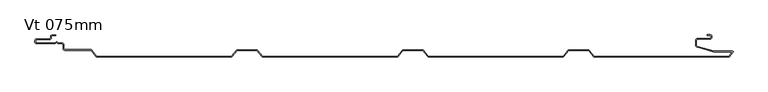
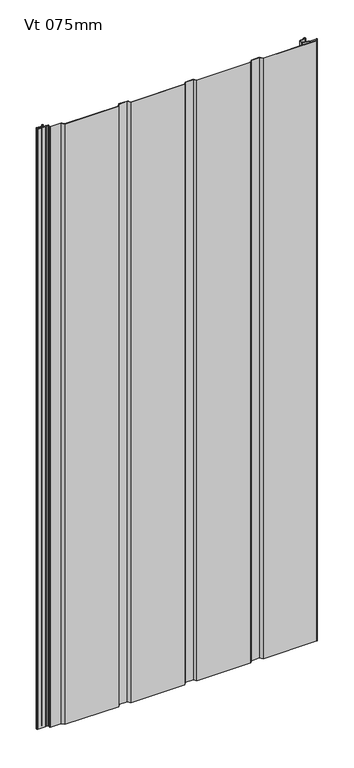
"""IFC4 building model written with IfcOpenShell, lengths in millimetres: plate geometry, KIP-MEX-KW-R19-CP-Vt-KW3_SL : Vt 075mm."""

from ifc_helpers import new_model, si_unit, point, frame_2d, origin, origin_with_axes, place, context, project, spatial, polyline, circle_curve, trimmed, segment, composite_curve, outline, extrude, source, transform, mapped, element, save


def vt_075mm_04f93a46(model_context):
    return source(origin(), model_context, "Body", "SweptSolid", [
        extrude(outline(composite_curve([segment(polyline([(319.1443161, -75.0), (311.1443161, -65.0), (281.1443161, -65.0), (273.1443161, -75.0), (69.1443161, -75.0), (61.1443161, -65.0), (31.1443161, -65.0), (23.1443161, -75.0), (-180.8556839, -75.0), (-188.8556839, -65.0), (-218.8556839, -65.0), (-226.8556839, -75.0), (-430.8556839, -75.0), (-438.7634979, -64.8799997), (-478.2701413, -64.8799997)]), True, "CONTINUOUS"), segment(trimmed(circle_curve(frame_2d((-478.2060113, -62.3808228)), 2.4999995), [point((-478.2701413, -64.8799997))], [point((-480.7060107, -62.3808228))], False, "CARTESIAN"), True, "CONTINUOUS"), segment(polyline([(-480.7060107, -62.3808228), (-480.7060107, -56.8808208)]), True, "CONTINUOUS"), segment(trimmed(circle_curve(frame_2d((-482.7060126, -56.8808208)), 2.0000019), [point((-480.7060107, -56.8808208))], [point((-482.7060126, -54.880819))], True, "CARTESIAN"), True, "CONTINUOUS"), segment(polyline([(-482.7060126, -54.880819), (-488.7060043, -54.880819), (-490.7060117, -52.8808375), (-492.7060191, -54.8808707), (-521.0060773, -54.8808707)]), True, "CONTINUOUS"), segment(trimmed(circle_curve(frame_2d((-521.0060773, -52.3807949)), 2.5000758), [point((-521.0060773, -54.8808707))], [point((-523.5061531, -52.3807949))], False, "CARTESIAN"), True, "CONTINUOUS"), segment(polyline([(-523.5061531, -52.3807949), (-523.5061531, -50.3981504)]), True, "CONTINUOUS"), segment(trimmed(circle_curve(frame_2d((-521.0058727, -50.3981504)), 2.5002804), [point((-523.5061531, -50.3981504))], [point((-521.0542465, -47.898338))], False, "CARTESIAN"), True, "CONTINUOUS"), segment(polyline([(-521.0542465, -47.898338), (-502.0036263, -47.898338)]), True, "CONTINUOUS"), segment(trimmed(circle_curve(frame_2d((-502.0036263, -45.8947114)), 2.0036267), [point((-502.0036263, -47.898338))], [point((-500.0000002, -45.8932097))], True, "CARTESIAN"), True, "CONTINUOUS"), segment(polyline([(-500.0000002, -45.8932097), (-500.0000002, -44.36152)]), True, "CONTINUOUS"), segment(trimmed(circle_curve(frame_2d((-497.5097194, -44.36152)), 2.4902807), [point((-500.0000002, -44.36152))], [point((-497.5115855, -41.87124))], False, "CARTESIAN"), True, "CONTINUOUS"), segment(polyline([(-497.5115855, -41.87124), (-492.2480458, -41.87124), (-492.2480458, -42.8880902), (-497.5062725, -42.8880902)]), True, "CONTINUOUS"), segment(trimmed(circle_curve(frame_2d((-497.5051479, -44.38863)), 1.5005402), [point((-497.5062725, -42.8880902))], [point((-499.0056881, -44.38863))], True, "CARTESIAN"), True, "CONTINUOUS"), segment(polyline([(-499.0056881, -44.38863), (-499.0056881, -45.813613)]), True, "CONTINUOUS"), segment(trimmed(circle_curve(frame_2d((-502.0059127, -45.8958544)), 3.0013516), [point((-499.0056881, -45.813613))], [point((-502.0059127, -48.897206))], False, "CARTESIAN"), True, "CONTINUOUS"), segment(polyline([(-502.0059127, -48.897206), (-521.0430726, -48.8972059)]), True, "CONTINUOUS"), segment(trimmed(circle_curve(frame_2d((-521.0055876, -50.3975906)), 1.5008529), [point((-521.0430726, -48.8972059))], [point((-522.5064405, -50.3975906))], True, "CARTESIAN"), True, "CONTINUOUS"), segment(polyline([(-522.5064405, -50.3975906), (-522.5064405, -52.3807386)]), True, "CONTINUOUS"), segment(trimmed(circle_curve(frame_2d((-521.0062107, -52.3807386)), 1.5002298), [point((-522.5064405, -52.3807386))], [point((-521.0062107, -53.8809684))], True, "CARTESIAN"), True, "CONTINUOUS"), segment(polyline([(-521.0062107, -53.8809684), (-493.1202477, -53.8809684), (-490.7060117, -51.4666539), (-488.2917757, -53.8808114), (-482.7060145, -53.8808114)]), True, "CONTINUOUS"), segment(trimmed(circle_curve(frame_2d((-482.7060145, -56.8808171)), 3.0000056), [point((-482.7060145, -53.8808114))], [point((-479.7060088, -56.8808171))], False, "CARTESIAN"), True, "CONTINUOUS"), segment(polyline([(-479.7060088, -56.8808171), (-479.7060088, -62.3808232)]), True, "CONTINUOUS"), segment(trimmed(circle_curve(frame_2d((-478.2060104, -62.3808232)), 1.4999984), [point((-479.7060088, -62.3808232))], [point((-478.2556825, -63.879999))], True, "CARTESIAN"), True, "CONTINUOUS"), segment(polyline([(-478.2556825, -63.879999), (-438.275811, -63.879999), (-430.367997, -74.0), (-227.3363087, -74.0), (-219.3363087, -64.0), (-188.375059, -64.0), (-180.375059, -74.0), (22.6636913, -74.0), (30.6636913, -64.0), (61.624941, -64.0), (69.624941, -74.0), (272.6636913, -74.0), (280.6636913, -64.0), (311.624941, -64.0), (319.624941, -74.0), (522.656057, -74.0), (527.9339159, -67.2453862), (499.5757533, -67.2453862), (474.8575959, -60.1471518)]), True, "CONTINUOUS"), segment(trimmed(circle_curve(frame_2d((475.6826214, -57.2741683)), 2.9890973), [point((474.8575959, -60.1471518))], [point((472.6935241, -57.2741683))], False, "CARTESIAN"), True, "CONTINUOUS"), segment(polyline([(472.6935241, -57.2741683), (472.6935241, -49.8069117)]), True, "CONTINUOUS"), segment(trimmed(circle_curve(frame_2d((475.7144099, -49.8069117)), 3.0208858), [point((472.6935241, -49.8069117))], [point((475.7144099, -46.7860259))], False, "CARTESIAN"), True, "CONTINUOUS"), segment(polyline([(475.7144099, -46.7860259), (494.2379227, -46.7860259)]), True, "CONTINUOUS"), segment(trimmed(circle_curve(frame_2d((494.2379227, -45.2919167)), 1.4941093), [point((494.2379227, -46.7860259))], [point((495.7320319, -45.2919167))], True, "CARTESIAN"), True, "CONTINUOUS"), segment(polyline([(495.7320319, -45.2919167), (495.7320319, -43.7425059)]), True, "CONTINUOUS"), segment(trimmed(circle_curve(frame_2d((494.2336758, -43.7425059)), 1.4983561), [point((495.7320319, -43.7425059))], [point((494.2336758, -42.2441498))], True, "CARTESIAN"), True, "CONTINUOUS"), segment(polyline([(494.2336758, -42.2441498), (489.7350458, -42.2441498), (489.7350458, -41.2439517), (494.2339235, -41.2439517)]), True, "CONTINUOUS"), segment(trimmed(circle_curve(frame_2d((494.2339235, -43.7426049)), 2.4986532), [point((494.2339235, -41.2439517))], [point((496.7325767, -43.7426049))], False, "CARTESIAN"), True, "CONTINUOUS"), segment(polyline([(496.7325767, -43.7426049), (496.7325767, -45.3143146)]), True, "CONTINUOUS"), segment(trimmed(circle_curve(frame_2d((494.2374949, -45.2928767)), 2.4951739), [point((496.7325767, -45.3143146))], [point((494.2374949, -47.7880507))], False, "CARTESIAN"), True, "CONTINUOUS"), segment(polyline([(494.2374949, -47.7880507), (475.7063133, -47.7880507)]), True, "CONTINUOUS"), segment(trimmed(circle_curve(frame_2d((475.7063133, -49.804821)), 2.0167704), [point((475.7063133, -47.7880507))], [point((473.6895429, -49.804821))], True, "CARTESIAN"), True, "CONTINUOUS"), segment(polyline([(473.6895429, -49.804821), (473.6895429, -57.2734679)]), True, "CONTINUOUS"), segment(trimmed(circle_curve(frame_2d((475.6808259, -57.2734679)), 1.9912829), [point((473.6895429, -57.2734679))], [point((475.1313548, -59.18744))], True, "CARTESIAN"), True, "CONTINUOUS"), segment(polyline([(475.1313548, -59.18744), (499.7162879, -66.2453845), (527.9071445, -66.2453845)]), True, "CONTINUOUS"), segment(trimmed(circle_curve(frame_2d((527.9339159, -67.245026)), 1.0), [point((527.9071445, -66.2453845))], [point((528.72191, -67.8607089))], False, "CARTESIAN"), True, "CONTINUOUS"), segment(polyline([(528.72191, -67.8607089), (523.8944685, -74.0392071)]), True, "CONTINUOUS"), segment(trimmed(circle_curve(frame_2d((521.9244833, -72.5)), 2.5), [point((523.8944685, -74.0392071))], [point((521.9244833, -75.0))], False, "CARTESIAN"), True, "CONTINUOUS"), segment(polyline([(521.9244833, -75.0), (319.1443161, -75.0)]), True, "CONTINUOUS")], self_intersect=False)), origin_with_axes(), (0.0, 0.0, 1.0), 2400.0),
    ])


if __name__ == "__main__":
    model = new_model("IFC4")
    model_context = context("Model", 3, world=origin())
    ifc_project = project(units=[si_unit("LENGTHUNIT", "METRE", prefix="MILLI")], contexts=[model_context])
    site = spatial("IfcSite", under=ifc_project)
    building = spatial("IfcBuilding", under=site)
    placement = place(None, origin())
    vt_075mm_shape = vt_075mm_04f93a46(model_context)
    element("IfcPlate", 1, ObjectType="KIP-MEX-KW-R19-CP-Vt-KW3_SL : Vt 075mm", at=placement, inside=building, context=model_context, shape_type="MappedRepresentation", body=[
        mapped(vt_075mm_shape, transform((0.0, 0.0, 0.0), x_axis=(1.0, 0.0, 0.0), y_axis=(0.0, 1.0, 0.0), z_axis=(0.0, 0.0, 1.0))),
    ])
    save(model, "model.ifc")
